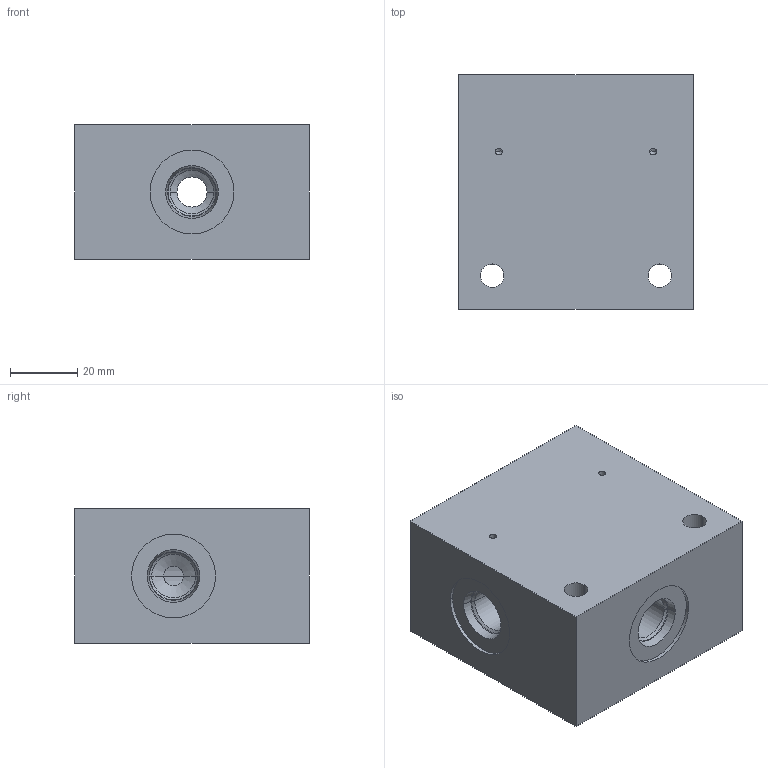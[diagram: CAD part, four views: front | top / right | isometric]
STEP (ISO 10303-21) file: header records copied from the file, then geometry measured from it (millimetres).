
FILE_DESCRIPTION((''),'2;1');
FILE_NAME('1000195629','2023-10-11T',('l.soukupova'),(''),'PRO/ENGINEER BY PARAMETRIC TECHNOLOGY CORPORATION, 2015440','PRO/ENGINEER BY PARAMETRIC TECHNOLOGY CORPORATION, 2015440','');
FILE_SCHEMA(('AUTOMOTIVE_DESIGN { 1 0 10303 214 1 1 1 1 }'));
Length unit declared in the file: millimetre
Products named in the file (1): 1000195629
Bounding box: 70 x 70 x 40 mm (x, y, z)
Volume: 173487.5 mm3; surface area: 29453.4 mm2
Topology: 1 solids, 5 shells, 88 faces, 287 edges, 234 vertices
Faces by surface type: cylinder 42, cone 32, plane 14
Entity records: 4219 total; most frequent: CARTESIAN_POINT 675, DIRECTION 579, ORIENTED_EDGE 376, PRESENTATION_STYLE_ASSIGNMENT 310, STYLED_ITEM 310, CURVE_STYLE 305, AXIS2_PLACEMENT_3D 204, EDGE_CURVE 196
